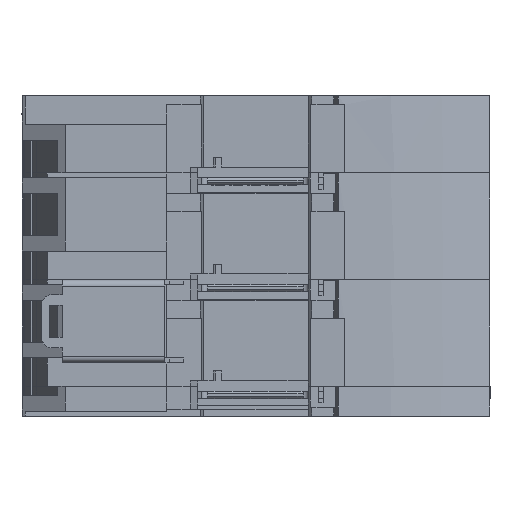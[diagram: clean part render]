
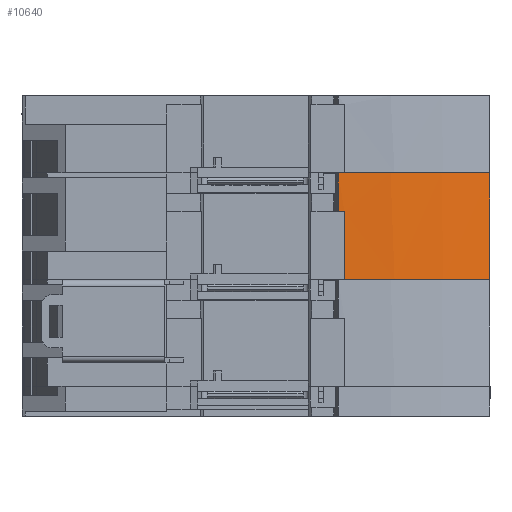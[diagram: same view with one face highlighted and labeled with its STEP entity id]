
A CAD part, front view. The second image highlights one B-rep face of the part: STEP entity #10640.
In plain terms, the highlighted cylindrical face has radius 80 mm (diameter 160 mm), a partial arc.
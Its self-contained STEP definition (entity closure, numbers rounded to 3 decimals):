
#10060=CARTESIAN_POINT('',(10.293,65.8,
-14.585));
#10070=DIRECTION('',(1.,0.,0.));
#10080=DIRECTION('',(0.,0.,-1.));
#10090=AXIS2_PLACEMENT_3D('',#10060,#10070,#10080);
#10100=CYLINDRICAL_SURFACE('',#10090,80.);
#10110=CARTESIAN_POINT('',(10.293,-5.642,
-50.585));
#10120=DIRECTION('',(1.,0.,0.));
#10130=VECTOR('',#10120,1.);
#10140=LINE('',#10110,#10130);
#10150=CARTESIAN_POINT('',(-7.257,-5.642,
-50.585));
#10160=VERTEX_POINT('',#10150);
#10170=CARTESIAN_POINT('',(15.343,-5.642,
-50.585));
#10180=VERTEX_POINT('',#10170);
#10190=EDGE_CURVE('',#10160,#10180,#10140,.T.);
#10200=ORIENTED_EDGE('',*,*,#10190,.T.);
#10210=CARTESIAN_POINT('',(-7.257,65.8,
-14.585));
#10220=DIRECTION('',(1.,0.,0.));
#10230=DIRECTION('',(0.,0.,-1.));
#10240=AXIS2_PLACEMENT_3D('',#10210,#10220,#10230);
#10250=CIRCLE('',#10240,80.);
#10260=CARTESIAN_POINT('',(-7.257,-14.031,
-19.785));
#10270=VERTEX_POINT('',#10260);
#10280=EDGE_CURVE('',#10270,#10160,#10250,.T.);
#10290=ORIENTED_EDGE('',*,*,#10280,.T.);
#10300=CARTESIAN_POINT('',(10.293,-14.031,
-19.785));
#10310=DIRECTION('',(1.,0.,0.));
#10320=VECTOR('',#10310,1.);
#10330=LINE('',#10300,#10320);
#10340=CARTESIAN_POINT('',(7.143,-14.031,
-19.785));
#10350=VERTEX_POINT('',#10340);
#10360=EDGE_CURVE('',#10270,#10350,#10330,.T.);
#10370=ORIENTED_EDGE('',*,*,#10360,.F.);
#10380=CARTESIAN_POINT('',(7.143,65.8,
-14.585));
#10390=DIRECTION('',(1.,0.,0.));
#10400=DIRECTION('',(0.,0.,-1.));
#10410=AXIS2_PLACEMENT_3D('',#10380,#10390,#10400);
#10420=CIRCLE('',#10410,80.);
#10430=CARTESIAN_POINT('',(7.143,-14.105,
-18.49));
#10440=VERTEX_POINT('',#10430);
#10450=EDGE_CURVE('',#10440,#10350,#10420,.T.);
#10460=ORIENTED_EDGE('',*,*,#10450,.T.);
#10470=CARTESIAN_POINT('',(10.293,-14.105,
-18.49));
#10480=DIRECTION('',(1.,0.,0.));
#10490=VECTOR('',#10480,1.);
#10500=LINE('',#10470,#10490);
#10510=CARTESIAN_POINT('',(15.343,-14.105,
-18.49));
#10520=VERTEX_POINT('',#10510);
#10530=EDGE_CURVE('',#10440,#10520,#10500,.T.);
#10540=ORIENTED_EDGE('',*,*,#10530,.F.);
#10550=CARTESIAN_POINT('',(15.343,65.8,
-14.585));
#10560=DIRECTION('',(1.,0.,0.));
#10570=DIRECTION('',(0.,0.,-1.));
#10580=AXIS2_PLACEMENT_3D('',#10550,#10560,#10570);
#10590=CIRCLE('',#10580,80.);
#10600=EDGE_CURVE('',#10520,#10180,#10590,.T.);
#10610=ORIENTED_EDGE('',*,*,#10600,.F.);
#10620=EDGE_LOOP('',(#10610,#10540,#10460,#10370,#10290,#10200));
#10630=FACE_OUTER_BOUND('',#10620,.T.);
#10640=ADVANCED_FACE('',(#10630),#10100,.T.);
